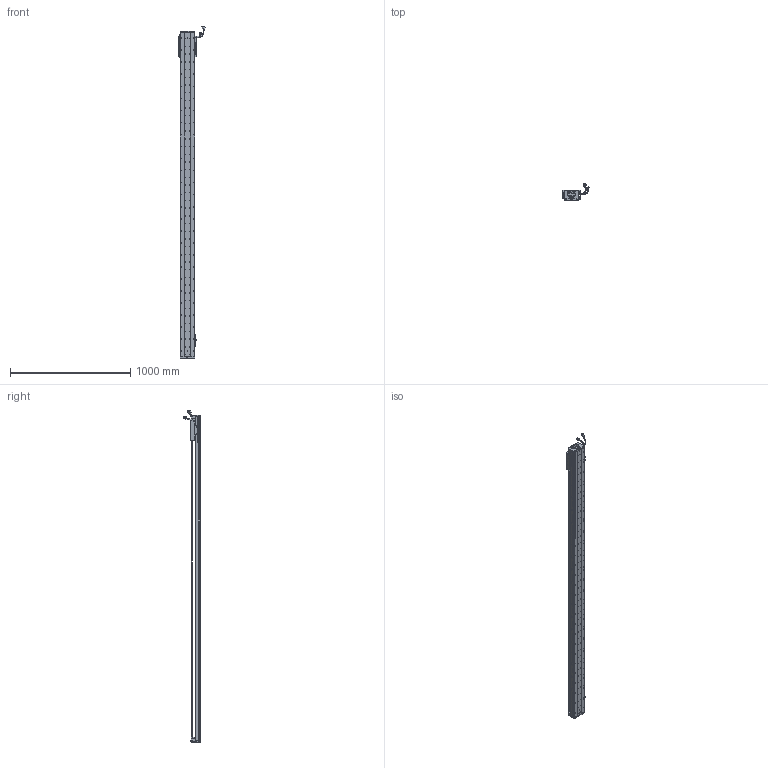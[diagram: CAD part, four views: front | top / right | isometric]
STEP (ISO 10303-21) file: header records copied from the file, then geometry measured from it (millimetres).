
FILE_DESCRIPTION (( 'STEP AP203' ), '1' );
FILE_NAME ('Z2-RY120D-1-L500-B-K.SLDASM_2450.step', '2021-05-17T05:38:59', ( '盈信电脑' ), ( '东莞市道滘镇水果街19号' ), 'SwSTEP 2.0', 'SolidWorks 2016', '' );
FILE_SCHEMA (( 'CONFIG_CONTROL_DESIGN' ));
Length unit declared in the file: millimetre
Products named in the file (37): SCREW-M1.7-1; Z-RY120D詩湍奻揤裔; 覜茼ん672; LABEL-Part-1; 080黍杅芛假蚾釱21遴; RY100FB-遵嫖萇覜茼え; Z2-RY120铝滑块（21款）; SCALE-Part-1; 140雄赽晤鎢ん堤盄; COVER; COVER-Part-1; SHIELDPLATE; SCREW-M1.6; SCREW-M1.6-3; HARNESS-Part-2; PSLH080_PSLF2; 榋妏寠巭燃_暯_M2_2; PBU_SHEET; Z2-RY120D-1-L500-B-K.SLDASM_2450; SCREW-M1.7; Z2-RY120-L500詩湍100mm遵_2450; 140蚥薯蝶輸; 120-Z-臏賑輸盄裔(21遴); Z2-RY120-500-倰第菁釱_2450; SCREW-M1.6-1; SCREW-M1.6-2; HARNESS-Part-1; HARNESS; SCALE-Part-2; Z-120詩湍傷裔啣; SEAL-Part-1; LABEL; SCALE; Z-RY120D詩湍狟揤裔; HOLDER0; 672嫖萇羲壽假蚾釱; SEAL
Assembly tree (43 placements, depth 4):
  Z2-RY120D-1-L500-B-K.SLDASM_2450
    Z2-RY120-500-倰第菁釱_2450
    覜茼ん672  x3
    672嫖萇羲壽假蚾釱  x2
    Z2-RY120铝滑块（21款）
    PSLH080_PSLF2
      SCALE
        SCALE-Part-1
        SCALE-Part-2
      HARNESS
        HARNESS-Part-1
        HARNESS-Part-2
      LABEL
        LABEL-Part-1
      COVER
        COVER-Part-1
      SEAL
        SEAL-Part-1
      榋妏寠巭燃_暯_M2_2
      SHIELDPLATE
      SCREW-M1.7
      SCREW-M1.7-1
      PBU_SHEET
      SCREW-M1.6
      SCREW-M1.6-1
      SCREW-M1.6-2
      SCREW-M1.6-3
      HOLDER0
    080黍杅芛假蚾釱21遴
    120-Z-臏賑輸盄裔(21遴)
    140雄赽晤鎢ん堤盄
    140蚥薯蝶輸  x2
    RY100FB-遵嫖萇覜茼え
    Z-120詩湍傷裔啣  x2
    Z-RY120D詩湍奻揤裔  x2
    Z-RY120D詩湍狟揤裔  x2
    Z2-RY120-L500詩湍100mm遵_2450
Bounding box: 222.83 x 140.94 x 2758.99 mm (x, y, z)
Volume: 6289489.8 mm3; surface area: 2229423.8 mm2
Topology: 38 solids, 38 shells, 3721 faces, 10626 edges, 6708 vertices
Faces by surface type: cylinder 1962, plane 1255, cone 382, torus 69, bspline 53
Entity records: 125555 total; most frequent: CARTESIAN_POINT 38708, ORIENTED_EDGE 18012, DIRECTION 16440, EDGE_CURVE 9006, AXIS2_PLACEMENT_3D 6078, VERTEX_POINT 5828, LINE 4284, VECTOR 4284
